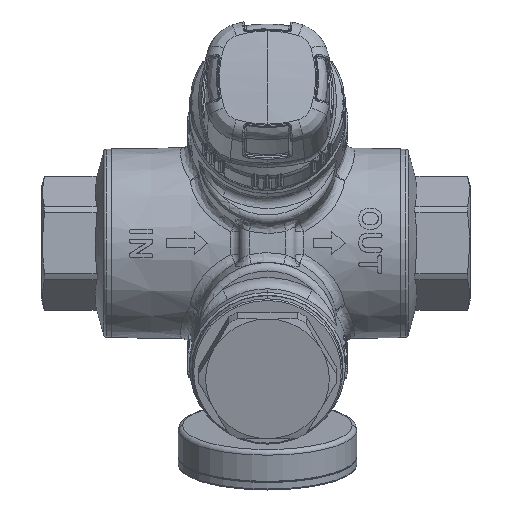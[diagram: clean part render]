
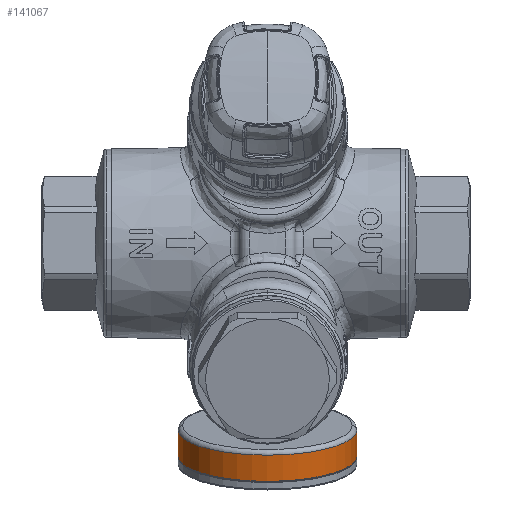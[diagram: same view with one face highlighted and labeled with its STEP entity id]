
A CAD part, top view. The second image highlights one B-rep face of the part: STEP entity #141067.
In plain terms, the highlighted cylindrical face has radius 19.5 mm (diameter 39 mm), a partial arc.
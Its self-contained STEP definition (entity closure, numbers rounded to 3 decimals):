
#101195 = TOROIDAL_SURFACE('',#101196,18.5,1.);
#101196 = AXIS2_PLACEMENT_3D('',#101197,#101198,#101199);
#101197 = CARTESIAN_POINT('',(94.714,36.849,
    29.862));
#101198 = DIRECTION('',(0.,-0.959,
    -0.282));
#101199 = DIRECTION('',(-1.,0.002,
    -0.006));
#140912 = PLANE('',#140913);
#140913 = AXIS2_PLACEMENT_3D('',#140914,#140915,#140916);
#140914 = CARTESIAN_POINT('',(94.714,31.093,
    28.168));
#140915 = DIRECTION('',(0.,-0.959,
    -0.282));
#140916 = DIRECTION('',(-1.,0.,0.));
#141003 = VERTEX_POINT('',#141004);
#141004 = CARTESIAN_POINT('',(114.214,31.093,
    28.168));
#141005 = VERTEX_POINT('',#141006);
#141006 = CARTESIAN_POINT('',(75.214,31.093,
    28.168));
#141025 = CYLINDRICAL_SURFACE('',#141026,19.5);
#141026 = AXIS2_PLACEMENT_3D('',#141027,#141028,#141029);
#141027 = CARTESIAN_POINT('',(94.714,48.313,
    33.236));
#141028 = DIRECTION('',(0.,-0.959,
    -0.282));
#141029 = DIRECTION('',(-1.,0.,0.));
#141037 = EDGE_CURVE('',#141003,#141005,#141038,.T.);
#141038 = SURFACE_CURVE('',#141039,(#141044,#141051),.PCURVE_S1.);
#141039 = CIRCLE('',#141040,19.5);
#141040 = AXIS2_PLACEMENT_3D('',#141041,#141042,#141043);
#141041 = CARTESIAN_POINT('',(94.714,31.093,
    28.168));
#141042 = DIRECTION('',(0.,-0.959,
    -0.282));
#141043 = DIRECTION('',(1.,0.,0.));
#141044 = PCURVE('',#140912,#141045);
#141045 = DEFINITIONAL_REPRESENTATION('',(#141046),#141050);
#141046 = CIRCLE('',#141047,19.5);
#141047 = AXIS2_PLACEMENT_2D('',#141048,#141049);
#141048 = CARTESIAN_POINT('',(0.,0.));
#141049 = DIRECTION('',(-1.,0.));
#141050 = ( GEOMETRIC_REPRESENTATION_CONTEXT(2) 
PARAMETRIC_REPRESENTATION_CONTEXT() REPRESENTATION_CONTEXT('2D SPACE',''
  ) );
#141051 = PCURVE('',#141052,#141057);
#141052 = CYLINDRICAL_SURFACE('',#141053,19.5);
#141053 = AXIS2_PLACEMENT_3D('',#141054,#141055,#141056);
#141054 = CARTESIAN_POINT('',(94.714,48.313,
    33.236));
#141055 = DIRECTION('',(0.,-0.959,
    -0.282));
#141056 = DIRECTION('',(-1.,0.,0.));
#141057 = DEFINITIONAL_REPRESENTATION('',(#141058),#141062);
#141058 = LINE('',#141059,#141060);
#141059 = CARTESIAN_POINT('',(3.142,17.95));
#141060 = VECTOR('',#141061,1.);
#141061 = DIRECTION('',(1.,0.));
#141062 = ( GEOMETRIC_REPRESENTATION_CONTEXT(2) 
PARAMETRIC_REPRESENTATION_CONTEXT() REPRESENTATION_CONTEXT('2D SPACE',''
  ) );
#141067 = ADVANCED_FACE('',(#141068),#141052,.T.);
#141068 = FACE_BOUND('',#141069,.T.);
#141069 = EDGE_LOOP('',(#141070,#141093,#141094,#141117));
#141070 = ORIENTED_EDGE('',*,*,#141071,.F.);
#141071 = EDGE_CURVE('',#141005,#141072,#141074,.T.);
#141072 = VERTEX_POINT('',#141073);
#141073 = CARTESIAN_POINT('',(75.214,36.849,
    29.862));
#141074 = SURFACE_CURVE('',#141075,(#141079,#141086),.PCURVE_S1.);
#141075 = LINE('',#141076,#141077);
#141076 = CARTESIAN_POINT('',(75.214,31.093,
    28.168));
#141077 = VECTOR('',#141078,1.);
#141078 = DIRECTION('',(0.,0.959,0.282));
#141079 = PCURVE('',#141052,#141080);
#141080 = DEFINITIONAL_REPRESENTATION('',(#141081),#141085);
#141081 = LINE('',#141082,#141083);
#141082 = CARTESIAN_POINT('',(6.283,17.95));
#141083 = VECTOR('',#141084,1.);
#141084 = DIRECTION('',(0.,-1.));
#141085 = ( GEOMETRIC_REPRESENTATION_CONTEXT(2) 
PARAMETRIC_REPRESENTATION_CONTEXT() REPRESENTATION_CONTEXT('2D SPACE',''
  ) );
#141086 = PCURVE('',#141025,#141087);
#141087 = DEFINITIONAL_REPRESENTATION('',(#141088),#141092);
#141088 = LINE('',#141089,#141090);
#141089 = CARTESIAN_POINT('',(0.,17.95));
#141090 = VECTOR('',#141091,1.);
#141091 = DIRECTION('',(0.,-1.));
#141092 = ( GEOMETRIC_REPRESENTATION_CONTEXT(2) 
PARAMETRIC_REPRESENTATION_CONTEXT() REPRESENTATION_CONTEXT('2D SPACE',''
  ) );
#141093 = ORIENTED_EDGE('',*,*,#141037,.F.);
#141094 = ORIENTED_EDGE('',*,*,#141095,.T.);
#141095 = EDGE_CURVE('',#141003,#141096,#141098,.T.);
#141096 = VERTEX_POINT('',#141097);
#141097 = CARTESIAN_POINT('',(114.214,36.849,
    29.862));
#141098 = SURFACE_CURVE('',#141099,(#141103,#141110),.PCURVE_S1.);
#141099 = LINE('',#141100,#141101);
#141100 = CARTESIAN_POINT('',(114.214,31.093,
    28.168));
#141101 = VECTOR('',#141102,1.);
#141102 = DIRECTION('',(0.,0.959,0.282));
#141103 = PCURVE('',#141052,#141104);
#141104 = DEFINITIONAL_REPRESENTATION('',(#141105),#141109);
#141105 = LINE('',#141106,#141107);
#141106 = CARTESIAN_POINT('',(3.142,17.95));
#141107 = VECTOR('',#141108,1.);
#141108 = DIRECTION('',(0.,-1.));
#141109 = ( GEOMETRIC_REPRESENTATION_CONTEXT(2) 
PARAMETRIC_REPRESENTATION_CONTEXT() REPRESENTATION_CONTEXT('2D SPACE',''
  ) );
#141110 = PCURVE('',#141025,#141111);
#141111 = DEFINITIONAL_REPRESENTATION('',(#141112),#141116);
#141112 = LINE('',#141113,#141114);
#141113 = CARTESIAN_POINT('',(3.142,17.95));
#141114 = VECTOR('',#141115,1.);
#141115 = DIRECTION('',(0.,-1.));
#141116 = ( GEOMETRIC_REPRESENTATION_CONTEXT(2) 
PARAMETRIC_REPRESENTATION_CONTEXT() REPRESENTATION_CONTEXT('2D SPACE',''
  ) );
#141117 = ORIENTED_EDGE('',*,*,#141118,.F.);
#141118 = EDGE_CURVE('',#141072,#141096,#141119,.T.);
#141119 = SURFACE_CURVE('',#141120,(#141125,#141132),.PCURVE_S1.);
#141120 = CIRCLE('',#141121,19.5);
#141121 = AXIS2_PLACEMENT_3D('',#141122,#141123,#141124);
#141122 = CARTESIAN_POINT('',(94.714,36.849,
    29.862));
#141123 = DIRECTION('',(0.,0.959,0.282)
  );
#141124 = DIRECTION('',(-1.,0.,0.));
#141125 = PCURVE('',#141052,#141126);
#141126 = DEFINITIONAL_REPRESENTATION('',(#141127),#141131);
#141127 = LINE('',#141128,#141129);
#141128 = CARTESIAN_POINT('',(6.283,11.95));
#141129 = VECTOR('',#141130,1.);
#141130 = DIRECTION('',(-1.,0.));
#141131 = ( GEOMETRIC_REPRESENTATION_CONTEXT(2) 
PARAMETRIC_REPRESENTATION_CONTEXT() REPRESENTATION_CONTEXT('2D SPACE',''
  ) );
#141132 = PCURVE('',#101195,#141133);
#141133 = DEFINITIONAL_REPRESENTATION('',(#141134),#141138);
#141134 = LINE('',#141135,#141136);
#141135 = CARTESIAN_POINT('',(6.277,6.283));
#141136 = VECTOR('',#141137,1.);
#141137 = DIRECTION('',(-1.,0.));
#141138 = ( GEOMETRIC_REPRESENTATION_CONTEXT(2) 
PARAMETRIC_REPRESENTATION_CONTEXT() REPRESENTATION_CONTEXT('2D SPACE',''
  ) );
